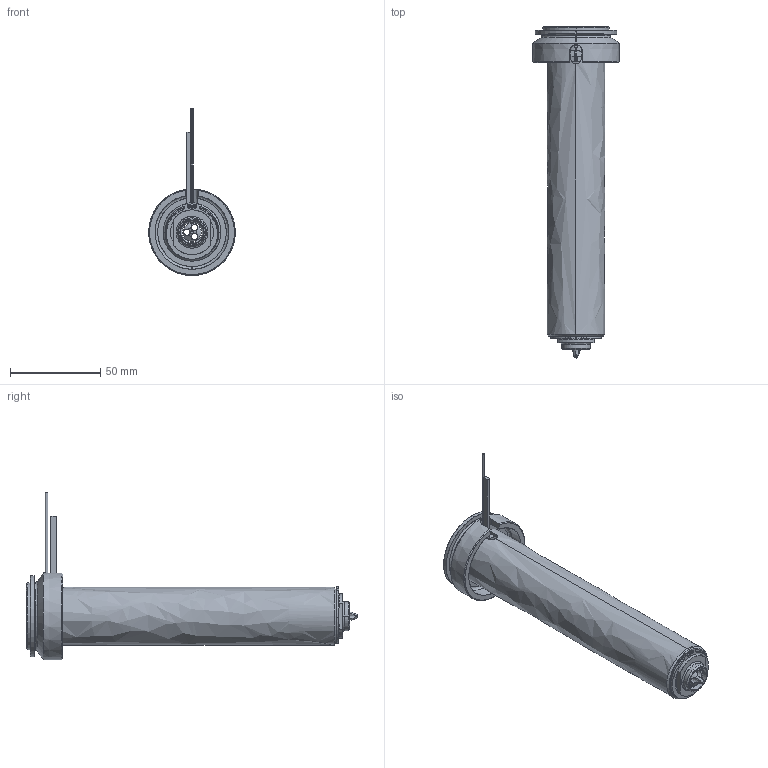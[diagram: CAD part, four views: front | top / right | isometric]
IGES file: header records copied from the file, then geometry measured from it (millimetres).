
Start section: SolidWorks IGES file using analytic representation for surfaces
Global section: file name: C:\Documents and Settings\ws-20\Desktop\TEM\UGEP5004-M-A-0 [Øf-1.55 ØC-13].IGS; native system: SolidWorks 2012; preprocessor: SolidWorks 2012; author: ws-20; date: 120426.102128; units: millimetre
Bounding box: 48 x 184.05 x 92.62 mm (x, y, z)
Surface area: 65866 mm2 (no closed solid volume)
Topology: 0 solids, 0 shells, 124 faces, 2310 edges, 2310 vertices
Faces by surface type: revolution 75, bspline 49
